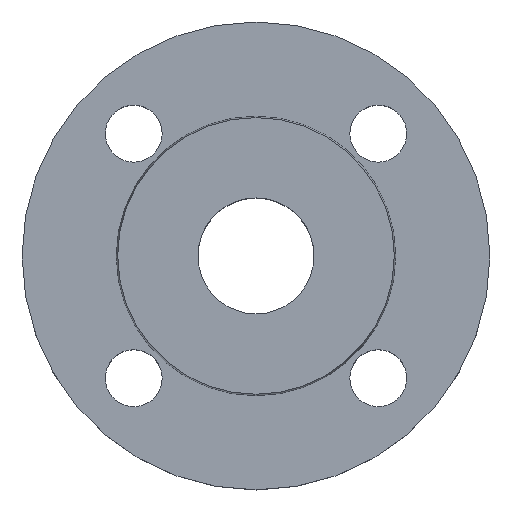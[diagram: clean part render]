
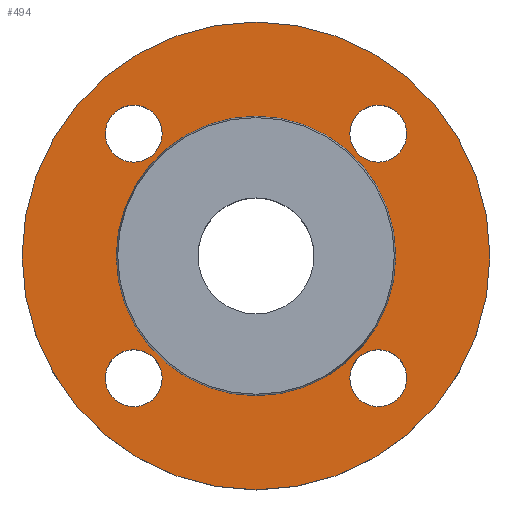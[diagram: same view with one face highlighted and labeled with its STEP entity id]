
A CAD part, top view. The second image highlights one B-rep face of the part: STEP entity #494.
In plain terms, the highlighted planar face has unit normal (0, 0, 1).
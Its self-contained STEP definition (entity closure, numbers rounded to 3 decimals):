
#6 = CIRCLE ( 'NONE', #8, 57.5 ) ;
#8 = AXIS2_PLACEMENT_3D ( 'NONE', #759, #760, #761 ) ;
#21 = CIRCLE ( 'NONE', #191, 7. ) ;
#45 = EDGE_CURVE ( 'NONE', #604, #477, #6, .T. ) ;
#49 = AXIS2_PLACEMENT_3D ( 'NONE', #460, #462, #463 ) ;
#57 = AXIS2_PLACEMENT_3D ( 'NONE', #194, #192, #190 ) ;
#83 = CARTESIAN_POINT ( 'NONE',  ( 23.052, -30.052, -2. ) ) ;
#91 = CIRCLE ( 'NONE', #479, 7. ) ;
#102 = CARTESIAN_POINT ( 'NONE',  ( -34.353, 0., -2. ) ) ;
#105 = CARTESIAN_POINT ( 'NONE',  ( -37.052, 30.052, -2. ) ) ;
#116 = CARTESIAN_POINT ( 'NONE',  ( 23.052, 30.052, -2. ) ) ;
#117 = CARTESIAN_POINT ( 'NONE',  ( 37.052, -30.052, -2. ) ) ;
#124 = CARTESIAN_POINT ( 'NONE',  ( 57.5, 0., -2. ) ) ;
#127 = AXIS2_PLACEMENT_3D ( 'NONE', #185, #184, #183 ) ;
#129 = CIRCLE ( 'NONE', #127, 7. ) ;
#130 = CIRCLE ( 'NONE', #139, 7. ) ;
#131 = CARTESIAN_POINT ( 'NONE',  ( -23.052, -30.052, -2. ) ) ;
#132 = CARTESIAN_POINT ( 'NONE',  ( -23.052, 30.052, -2. ) ) ;
#139 = AXIS2_PLACEMENT_3D ( 'NONE', #816, #817, #819 ) ;
#143 = DIRECTION ( 'NONE',  ( -1., 0., 0. ) ) ;
#145 = DIRECTION ( 'NONE',  ( 0., 0., -1. ) ) ;
#147 = CARTESIAN_POINT ( 'NONE',  ( 0., 0., -2. ) ) ;
#164 = AXIS2_PLACEMENT_3D ( 'NONE', #189, #188, #186 ) ;
#174 = CIRCLE ( 'NONE', #164, 7. ) ;
#183 = DIRECTION ( 'NONE',  ( 1., 0., 0. ) ) ;
#184 = DIRECTION ( 'NONE',  ( 0., 0., -1. ) ) ;
#185 = CARTESIAN_POINT ( 'NONE',  ( 30.052, -30.052, -2. ) ) ;
#186 = DIRECTION ( 'NONE',  ( 1., 0., 0. ) ) ;
#188 = DIRECTION ( 'NONE',  ( 0., 0., -1. ) ) ;
#189 = CARTESIAN_POINT ( 'NONE',  ( -30.052, 30.052, -2. ) ) ;
#190 = DIRECTION ( 'NONE',  ( 1., 0., 0. ) ) ;
#191 = AXIS2_PLACEMENT_3D ( 'NONE', #241, #242, #238 ) ;
#192 = DIRECTION ( 'NONE',  ( 0., 0., 1. ) ) ;
#194 = CARTESIAN_POINT ( 'NONE',  ( 34.353, 0., -2. ) ) ;
#195 = PLANE ( 'NONE',  #57 ) ;
#196 = FACE_OUTER_BOUND ( 'NONE', #570, .T. ) ;
#197 = FACE_BOUND ( 'NONE', #488, .T. ) ;
#198 = FACE_BOUND ( 'NONE', #736, .T. ) ;
#202 = FACE_BOUND ( 'NONE', #687, .T. ) ;
#203 = FACE_BOUND ( 'NONE', #675, .T. ) ;
#204 = FACE_BOUND ( 'NONE', #733, .T. ) ;
#206 = CARTESIAN_POINT ( 'NONE',  ( 34.353, 0., -2. ) ) ;
#214 = CARTESIAN_POINT ( 'NONE',  ( 37.052, 30.052, -2. ) ) ;
#216 = CARTESIAN_POINT ( 'NONE',  ( -37.052, -30.052, -2. ) ) ;
#219 = CIRCLE ( 'NONE', #717, 57.5 ) ;
#220 = CARTESIAN_POINT ( 'NONE',  ( -57.5, 0., -2. ) ) ;
#238 = DIRECTION ( 'NONE',  ( 1., 0., 0. ) ) ;
#239 = EDGE_CURVE ( 'NONE', #628, #483, #130, .T. ) ;
#241 = CARTESIAN_POINT ( 'NONE',  ( -30.052, -30.052, -2. ) ) ;
#242 = DIRECTION ( 'NONE',  ( 0., 0., -1. ) ) ;
#253 = CARTESIAN_POINT ( 'NONE',  ( 30.052, -30.052, -2. ) ) ;
#256 = DIRECTION ( 'NONE',  ( 0., 0., -1. ) ) ;
#257 = CARTESIAN_POINT ( 'NONE',  ( 30.052, 30.052, -2. ) ) ;
#268 = DIRECTION ( 'NONE',  ( 0., 0., -1. ) ) ;
#307 = DIRECTION ( 'NONE',  ( 1., 0., 0. ) ) ;
#310 = CARTESIAN_POINT ( 'NONE',  ( 0., 0., -2. ) ) ;
#311 = DIRECTION ( 'NONE',  ( -1., 0., 0. ) ) ;
#319 = CIRCLE ( 'NONE', #345, 34.353 ) ;
#323 = EDGE_CURVE ( 'NONE', #477, #604, #219, .T. ) ;
#327 = AXIS2_PLACEMENT_3D ( 'NONE', #253, #546, #307 ) ;
#330 = AXIS2_PLACEMENT_3D ( 'NONE', #257, #256, #543 ) ;
#331 = EDGE_CURVE ( 'NONE', #481, #599, #91, .T. ) ;
#342 = EDGE_CURVE ( 'NONE', #678, #590, #686, .T. ) ;
#345 = AXIS2_PLACEMENT_3D ( 'NONE', #310, #268, #311 ) ;
#365 = EDGE_CURVE ( 'NONE', #483, #628, #445, .T. ) ;
#371 = EDGE_CURVE ( 'NONE', #719, #626, #523, .T. ) ;
#399 = CARTESIAN_POINT ( 'NONE',  ( 0., 0., -2. ) ) ;
#403 = DIRECTION ( 'NONE',  ( 0., 0., -1. ) ) ;
#404 = DIRECTION ( 'NONE',  ( -1., 0., 0. ) ) ;
#427 = CARTESIAN_POINT ( 'NONE',  ( -30.052, -30.052, -2. ) ) ;
#428 = DIRECTION ( 'NONE',  ( 0., 0., -1. ) ) ;
#429 = DIRECTION ( 'NONE',  ( 1., 0., 0. ) ) ;
#445 = CIRCLE ( 'NONE', #330, 7. ) ;
#453 = EDGE_CURVE ( 'NONE', #487, #679, #319, .T. ) ;
#460 = CARTESIAN_POINT ( 'NONE',  ( -30.052, 30.052, -2. ) ) ;
#462 = DIRECTION ( 'NONE',  ( 0., 0., -1. ) ) ;
#463 = DIRECTION ( 'NONE',  ( 1., 0., 0. ) ) ;
#467 = EDGE_CURVE ( 'NONE', #599, #481, #21, .T. ) ;
#477 = VERTEX_POINT ( 'NONE', #220 ) ;
#479 = AXIS2_PLACEMENT_3D ( 'NONE', #427, #428, #429 ) ;
#481 = VERTEX_POINT ( 'NONE', #216 ) ;
#483 = VERTEX_POINT ( 'NONE', #214 ) ;
#487 = VERTEX_POINT ( 'NONE', #206 ) ;
#488 = EDGE_LOOP ( 'NONE', ( #698, #699 ) ) ;
#494 = ADVANCED_FACE ( 'NONE', ( #204, #203, #202, #198, #197, #196 ), #195, .T. ) ;
#497 = EDGE_CURVE ( 'NONE', #590, #678, #174, .T. ) ;
#501 = EDGE_CURVE ( 'NONE', #626, #719, #129, .T. ) ;
#509 = AXIS2_PLACEMENT_3D ( 'NONE', #147, #145, #143 ) ;
#523 = CIRCLE ( 'NONE', #327, 7. ) ;
#527 = EDGE_CURVE ( 'NONE', #679, #487, #545, .T. ) ;
#543 = DIRECTION ( 'NONE',  ( 1., 0., 0. ) ) ;
#545 = CIRCLE ( 'NONE', #509, 34.353 ) ;
#546 = DIRECTION ( 'NONE',  ( 0., 0., -1. ) ) ;
#570 = EDGE_LOOP ( 'NONE', ( #700, #701 ) ) ;
#590 = VERTEX_POINT ( 'NONE', #132 ) ;
#599 = VERTEX_POINT ( 'NONE', #131 ) ;
#604 = VERTEX_POINT ( 'NONE', #124 ) ;
#626 = VERTEX_POINT ( 'NONE', #117 ) ;
#628 = VERTEX_POINT ( 'NONE', #116 ) ;
#667 = ORIENTED_EDGE ( 'NONE', *, *, #501, .T. ) ;
#669 = ORIENTED_EDGE ( 'NONE', *, *, #371, .T. ) ;
#672 = ORIENTED_EDGE ( 'NONE', *, *, #467, .T. ) ;
#674 = ORIENTED_EDGE ( 'NONE', *, *, #331, .T. ) ;
#675 = EDGE_LOOP ( 'NONE', ( #672, #674 ) ) ;
#678 = VERTEX_POINT ( 'NONE', #105 ) ;
#679 = VERTEX_POINT ( 'NONE', #102 ) ;
#680 = ORIENTED_EDGE ( 'NONE', *, *, #497, .T. ) ;
#682 = ORIENTED_EDGE ( 'NONE', *, *, #342, .T. ) ;
#685 = ORIENTED_EDGE ( 'NONE', *, *, #365, .T. ) ;
#686 = CIRCLE ( 'NONE', #49, 7. ) ;
#687 = EDGE_LOOP ( 'NONE', ( #680, #682 ) ) ;
#697 = ORIENTED_EDGE ( 'NONE', *, *, #239, .T. ) ;
#698 = ORIENTED_EDGE ( 'NONE', *, *, #527, .T. ) ;
#699 = ORIENTED_EDGE ( 'NONE', *, *, #453, .T. ) ;
#700 = ORIENTED_EDGE ( 'NONE', *, *, #45, .F. ) ;
#701 = ORIENTED_EDGE ( 'NONE', *, *, #323, .F. ) ;
#717 = AXIS2_PLACEMENT_3D ( 'NONE', #399, #403, #404 ) ;
#719 = VERTEX_POINT ( 'NONE', #83 ) ;
#733 = EDGE_LOOP ( 'NONE', ( #667, #669 ) ) ;
#736 = EDGE_LOOP ( 'NONE', ( #685, #697 ) ) ;
#759 = CARTESIAN_POINT ( 'NONE',  ( 0., 0., -2. ) ) ;
#760 = DIRECTION ( 'NONE',  ( 0., 0., -1. ) ) ;
#761 = DIRECTION ( 'NONE',  ( -1., 0., 0. ) ) ;
#816 = CARTESIAN_POINT ( 'NONE',  ( 30.052, 30.052, -2. ) ) ;
#817 = DIRECTION ( 'NONE',  ( 0., 0., -1. ) ) ;
#819 = DIRECTION ( 'NONE',  ( 1., 0., 0. ) ) ;
